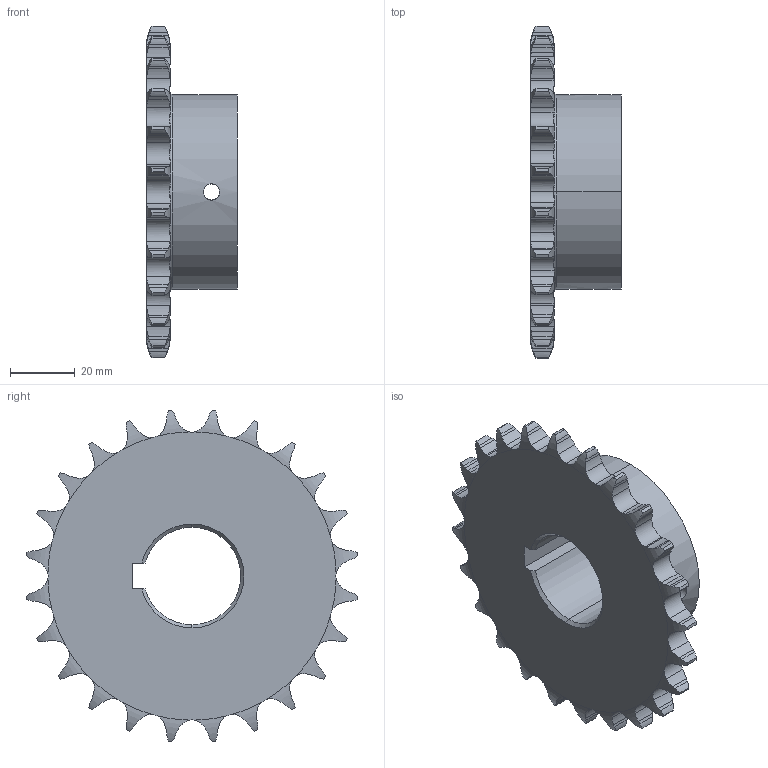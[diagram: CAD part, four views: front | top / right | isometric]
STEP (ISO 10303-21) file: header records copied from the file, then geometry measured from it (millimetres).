
FILE_DESCRIPTION (( 'STEP AP203' ), '1' );
FILE_NAME ('LN-FKJ-A0145链轮（24齿）.step', '2026-06-30T10:13:01', ( '' ), ( '' ), 'SwSTEP 2.0', 'SolidWorks 2024', '' );
FILE_SCHEMA (( 'CONFIG_CONTROL_DESIGN' ));
Length unit declared in the file: millimetre
Products named in the file (1): LN-FKJ-A0145链轮（24齿）
Bounding box: 28.03 x 102.24 x 102.24 mm (x, y, z)
Volume: 86816.8 mm3; surface area: 22397.2 mm2
Topology: 1 solids, 1 shells, 274 faces, 807 edges, 536 vertices
Faces by surface type: cylinder 164, plane 54, torus 50, cone 6
Entity records: 10312 total; most frequent: CARTESIAN_POINT 3578, ORIENTED_EDGE 1614, DIRECTION 1111, EDGE_CURVE 807, VERTEX_POINT 536, AXIS2_PLACEMENT_3D 443, B_SPLINE_CURVE_WITH_KNOTS 414, EDGE_LOOP 281
